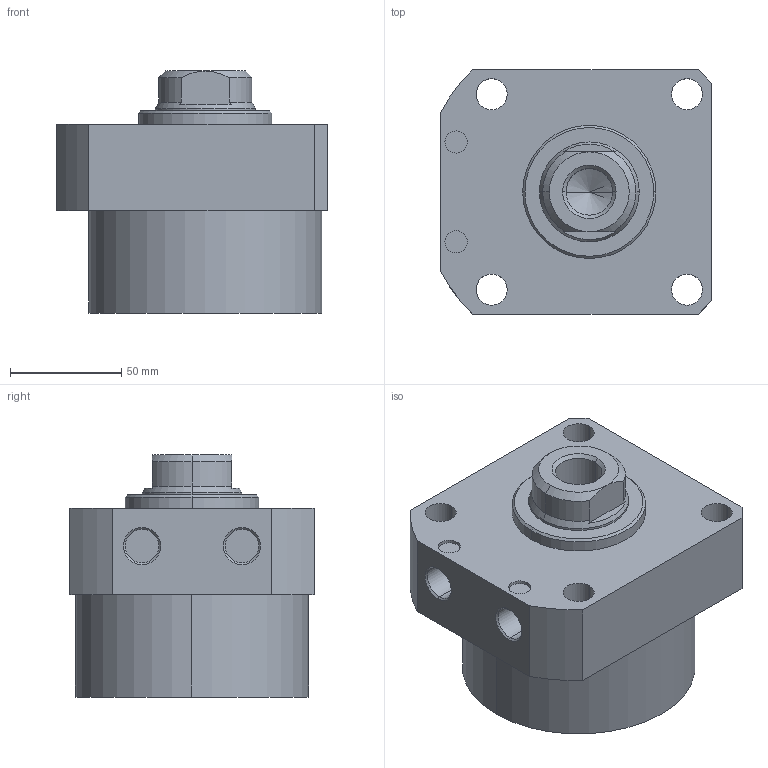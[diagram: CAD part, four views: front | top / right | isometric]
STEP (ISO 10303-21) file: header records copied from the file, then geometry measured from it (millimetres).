
FILE_DESCRIPTION (( 'STEP AP203' ), '1' );
FILE_NAME ('CLLR-105CA-025.STEP', '2019-12-19T01:28:47', ( '' ), ( '' ), 'SwSTEP 2.0', 'SolidWorks 2015', '' );
FILE_SCHEMA (( 'CONFIG_CONTROL_DESIGN' ));
Length unit declared in the file: millimetre
Products named in the file (1): CLLR-105CA-025
Bounding box: 122 x 110 x 109 mm (x, y, z)
Volume: 900460.3 mm3; surface area: 72817.5 mm2
Topology: 1 solids, 1 shells, 63 faces, 146 edges, 91 vertices
Faces by surface type: cylinder 29, plane 19, cone 15
Entity records: 1923 total; most frequent: CARTESIAN_POINT 355, DIRECTION 336, ORIENTED_EDGE 288, EDGE_CURVE 144, AXIS2_PLACEMENT_3D 136, VERTEX_POINT 91, EDGE_LOOP 79, CIRCLE 72
